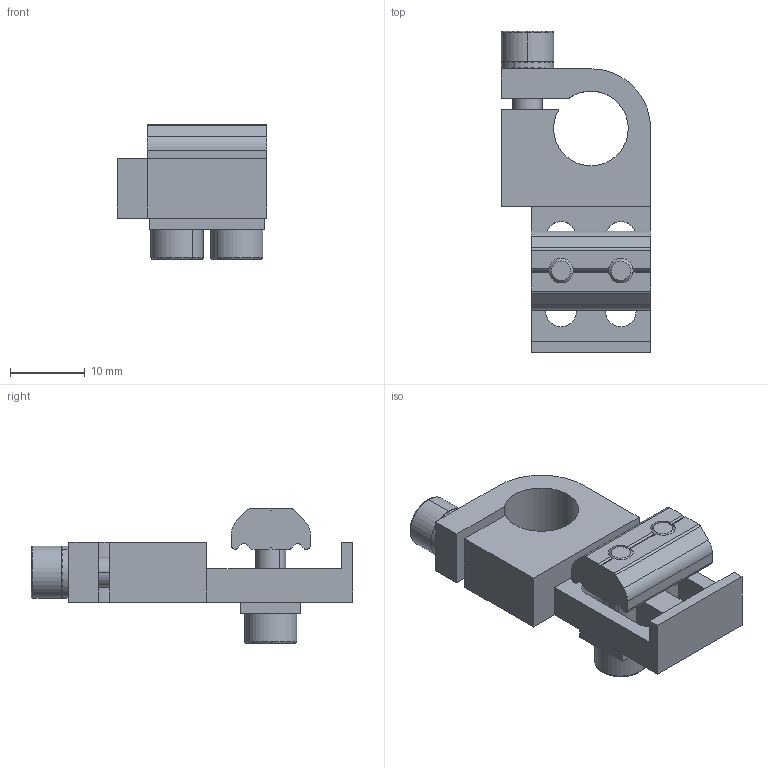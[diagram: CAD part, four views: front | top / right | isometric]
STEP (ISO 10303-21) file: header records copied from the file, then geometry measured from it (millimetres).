
FILE_DESCRIPTION (( 'STEP AP214' ), '1' );
FILE_NAME ('SMBE-1010T.STEP', '2022-12-13T07:27:09', ( '' ), ( '' ), 'SwSTEP 2.0', 'SolidWorks 2018', '' );
FILE_SCHEMA (( 'AUTOMOTIVE_DESIGN' ));
Length unit declared in the file: millimetre
Products named in the file (1): SMBE-1010T
Bounding box: 20 x 43 x 18 mm (x, y, z)
Volume: 4752 mm3; surface area: 4760.9 mm2
Topology: 7 solids, 7 shells, 341 faces, 958 edges, 632 vertices
Faces by surface type: plane 275, cylinder 54, cone 6, bspline 6
Entity records: 15320 total; most frequent: CARTESIAN_POINT 2496, ORIENTED_EDGE 1916, DIRECTION 1876, EDGE_CURVE 958, VERTEX_POINT 632, AXIS2_PLACEMENT_3D 626, LINE 624, VECTOR 624
